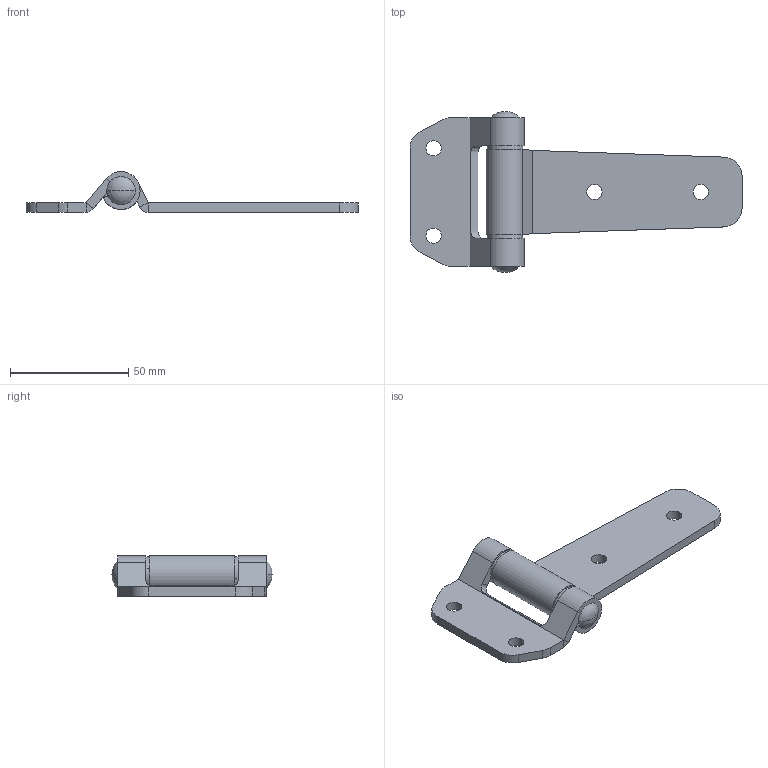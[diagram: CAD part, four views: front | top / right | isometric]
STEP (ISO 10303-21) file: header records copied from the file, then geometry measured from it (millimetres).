
FILE_DESCRIPTION (( 'STEP AP214' ), '1' );
FILE_NAME ('3.ST56.100.STEP', '2011-04-05T05:38:50', ( 'Techniczny' ), ( 'RST Roztocze' ), 'SwSTEP 2.0', 'SolidWorks 2010', '' );
FILE_SCHEMA (( 'AUTOMOTIVE_DESIGN' ));
Length unit declared in the file: millimetre
Products named in the file (5): Czêœæ4 ST56.1_Default; Czêœæ2 ST56.1_Default; 3.ST56.100; Czêœæ1 ST56.1_Default; Czêœæ3 ST56.1_Default
Assembly tree (5 placements, depth 2):
  3.ST56.100
    Czêœæ3 ST56.1_Default  x2
    Czêœæ1 ST56.1_Default
    Czêœæ2 ST56.1_Default
    Czêœæ4 ST56.1_Default
Bounding box: 140.47 x 68 x 17.24 mm (x, y, z)
Volume: 32140 mm3; surface area: 20698.6 mm2
Topology: 5 solids, 5 shells, 91 faces, 207 edges, 126 vertices
Faces by surface type: plane 42, cylinder 39, cone 4, torus 4, bspline 2
Entity records: 2486 total; most frequent: CARTESIAN_POINT 434, DIRECTION 418, ORIENTED_EDGE 362, EDGE_CURVE 181, AXIS2_PLACEMENT_3D 160, VERTEX_POINT 112, VECTOR 98, LINE 98
